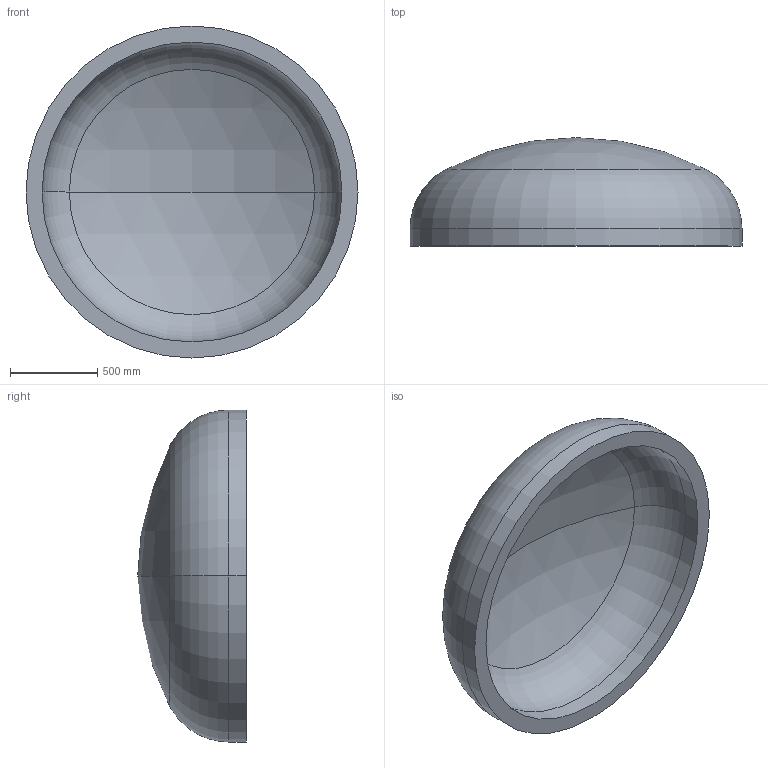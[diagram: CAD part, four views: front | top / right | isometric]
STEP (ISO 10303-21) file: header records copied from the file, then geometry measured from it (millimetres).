
FILE_DESCRIPTION (( 'STEP AP203' ), '1' );
FILE_NAME ('DIN 28013 Korbbogenform_-_Boden DIN 28013 - 1900 x 100 - I - s=92.step', '2016-07-01T13:23:31', ( '' ), ( '' ), 'SwSTEP 2.0', 'SolidWorks 2013', '' );
FILE_SCHEMA (( 'CONFIG_CONTROL_DESIGN' ));
Length unit declared in the file: millimetre
Products named in the file (1): DIN 28013 Korbbogenform_-_Boden DIN 28013 - 1900 x 100 - I - s=92
Bounding box: 1900 x 621 x 1900 mm (x, y, z)
Volume: 391086262.7 mm3; surface area: 9042159.9 mm2
Topology: 1 solids, 1 shells, 13 faces, 24 edges, 14 vertices
Faces by surface type: torus 4, cylinder 4, sphere 4, plane 1
Entity records: 407 total; most frequent: DIRECTION 72, CARTESIAN_POINT 52, ORIENTED_EDGE 48, AXIS2_PLACEMENT_3D 34, EDGE_CURVE 24, CIRCLE 20, EDGE_LOOP 14, VERTEX_POINT 14
